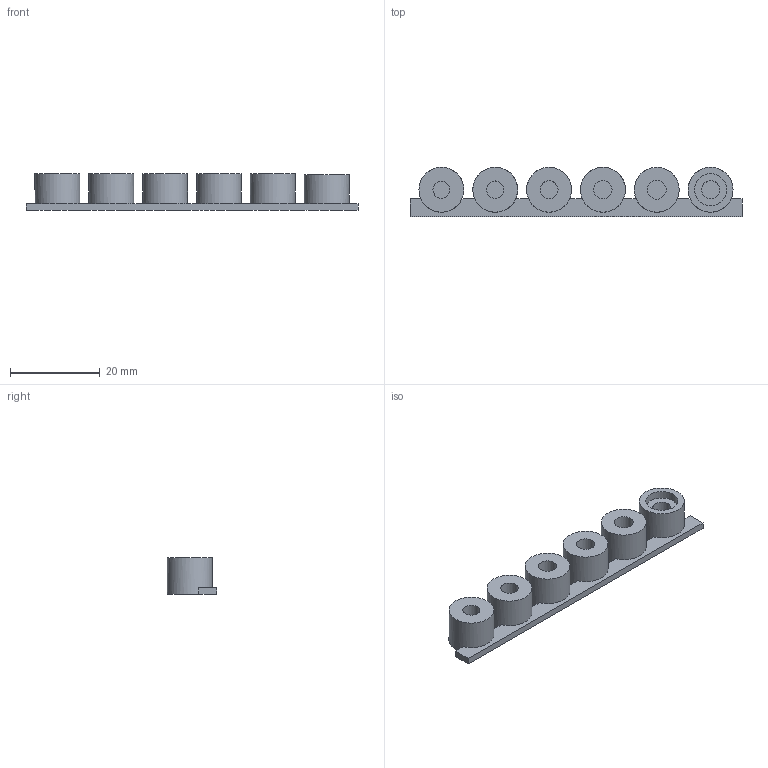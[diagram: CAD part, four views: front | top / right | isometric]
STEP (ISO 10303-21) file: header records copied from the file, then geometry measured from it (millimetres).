
FILE_DESCRIPTION(('FreeCAD Model'),'2;1');
FILE_NAME('Open CASCADE Shape Model','2026-09-11T23:32:08',('FreeCAD'),( 'FreeCAD'),'Open CASCADE STEP processor 7.8','FreeCAD','Unknown');
FILE_SCHEMA(('AUTOMOTIVE_DESIGN { 1 0 10303 214 1 1 1 1 }'));
Length unit declared in the file: millimetre
Products named in the file (1): Open CASCADE STEP translator 7.8 22
Bounding box: 74 x 11 x 8.2 mm (x, y, z)
Volume: 3567.9 mm3; surface area: 3397.2 mm2
Topology: 1 solids, 1 shells, 38 faces, 87 edges, 58 vertices
Faces by surface type: plane 25, cylinder 13
Full cylindrical faces by diameter (mm): 3.8 x1, 3.9 x1, 4 x2, 4.1 x1, 4.2 x1, 7.2 x1, 10 x6
Entity records: 1099 total; most frequent: DIRECTION 203, CARTESIAN_POINT 184, ORIENTED_EDGE 174, EDGE_CURVE 87, AXIS2_PLACEMENT_3D 77, VERTEX_POINT 58, LINE 49, VECTOR 49
